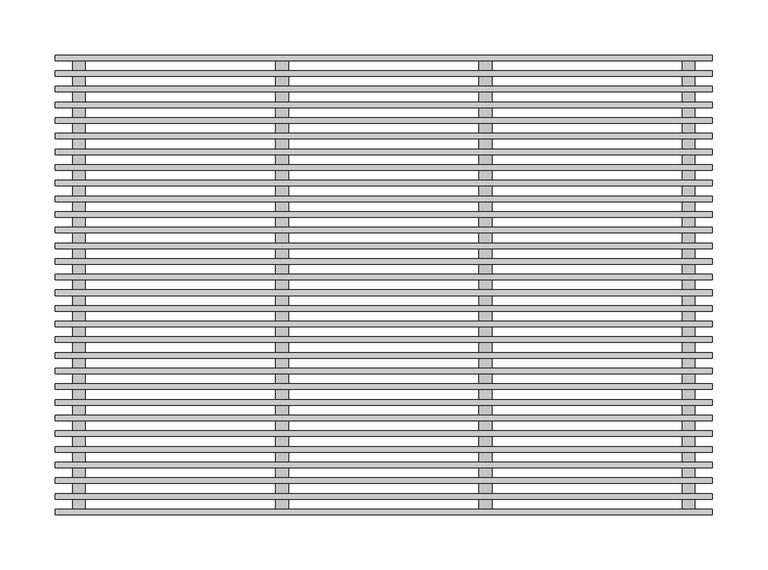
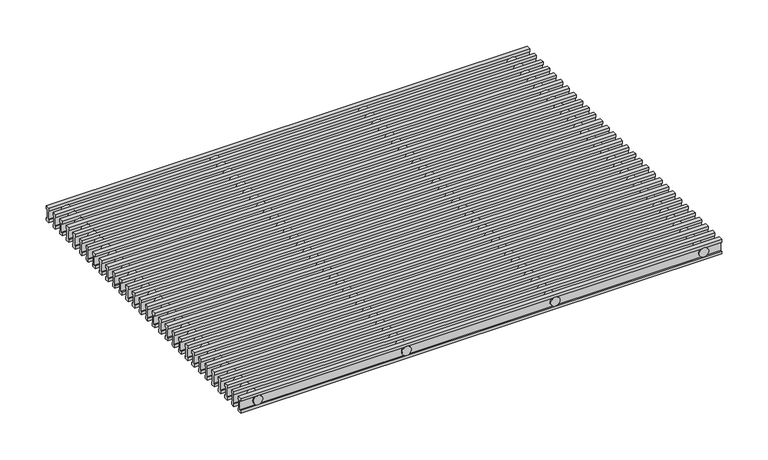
"""IFC4 building model written with IfcOpenShell, lengths in millimetres: proxy geometry, ♦ : РАП_Алюминиевая продольная/ Белый RAL 9016."""

from ifc_helpers import new_model, si_unit, point, frame, frame_2d, origin, place, context, project, spatial, polyline, circle_curve, trimmed, segment, composite_curve, outline, extrude, source, transform, mapped, element, save


def mechanical_equipment_845689bd(model_context):
    return source(origin(), model_context, "Body", "SweptSolid", [
        extrude(outline(polyline([(-189.5724138, 0.0), (-189.5724138, -3.86), (-190.8224138, -3.86), (-190.8224138, -15.44), (-189.5724138, -15.44), (-189.5724138, -19.3), (-194.5724138, -19.3), (-194.5724138, -15.44), (-193.3224138, -15.44), (-193.3224138, -3.86), (-194.5724138, -3.86), (-194.5724138, 0.0), (-189.5724138, 0.0)])), frame((1.2, 0.0, 0.0), z_axis=(1.0, 0.0, 0.0), x_axis=(0.0, 1.0, 0.0)), (0.0, 0.0, 1.0), 597.6),
        extrude(outline(polyline([(-175.3448276, 0.0), (-175.3448276, -3.86), (-176.5948276, -3.86), (-176.5948276, -15.44), (-175.3448276, -15.44), (-175.3448276, -19.3), (-180.3448276, -19.3), (-180.3448276, -15.44), (-179.0948276, -15.44), (-179.0948276, -3.86), (-180.3448276, -3.86), (-180.3448276, 0.0), (-175.3448276, 0.0)])), frame((1.2, 0.0, 0.0), z_axis=(1.0, 0.0, 0.0), x_axis=(0.0, 1.0, 0.0)), (0.0, 0.0, 1.0), 597.6),
        extrude(outline(polyline([(-161.1172414, 0.0), (-161.1172414, -3.86), (-162.3672414, -3.86), (-162.3672414, -15.44), (-161.1172414, -15.44), (-161.1172414, -19.3), (-166.1172414, -19.3), (-166.1172414, -15.44), (-164.8672414, -15.44), (-164.8672414, -3.86), (-166.1172414, -3.86), (-166.1172414, 0.0), (-161.1172414, 0.0)])), frame((1.2, 0.0, 0.0), z_axis=(1.0, 0.0, 0.0), x_axis=(0.0, 1.0, 0.0)), (0.0, 0.0, 1.0), 597.6),
        extrude(outline(polyline([(-146.8896552, 0.0), (-146.8896552, -3.86), (-148.1396552, -3.86), (-148.1396552, -15.44), (-146.8896552, -15.44), (-146.8896552, -19.3), (-151.8896552, -19.3), (-151.8896552, -15.44), (-150.6396552, -15.44), (-150.6396552, -3.86), (-151.8896552, -3.86), (-151.8896552, 0.0), (-146.8896552, 0.0)])), frame((1.2, 0.0, 0.0), z_axis=(1.0, 0.0, 0.0), x_axis=(0.0, 1.0, 0.0)), (0.0, 0.0, 1.0), 597.6),
        extrude(outline(polyline([(-132.662069, 0.0), (-132.662069, -3.86), (-133.912069, -3.86), (-133.912069, -15.44), (-132.662069, -15.44), (-132.662069, -19.3), (-137.662069, -19.3), (-137.662069, -15.44), (-136.412069, -15.44), (-136.412069, -3.86), (-137.662069, -3.86), (-137.662069, 0.0), (-132.662069, 0.0)])), frame((1.2, 0.0, 0.0), z_axis=(1.0, 0.0, 0.0), x_axis=(0.0, 1.0, 0.0)), (0.0, 0.0, 1.0), 597.6),
        extrude(outline(polyline([(-118.4344828, 0.0), (-118.4344828, -3.86), (-119.6844828, -3.86), (-119.6844828, -15.44), (-118.4344828, -15.44), (-118.4344828, -19.3), (-123.4344828, -19.3), (-123.4344828, -15.44), (-122.1844828, -15.44), (-122.1844828, -3.86), (-123.4344828, -3.86), (-123.4344828, 0.0), (-118.4344828, 0.0)])), frame((1.2, 0.0, 0.0), z_axis=(1.0, 0.0, 0.0), x_axis=(0.0, 1.0, 0.0)), (0.0, 0.0, 1.0), 597.6),
        extrude(outline(polyline([(-104.2068966, 0.0), (-104.2068966, -3.86), (-105.4568966, -3.86), (-105.4568966, -15.44), (-104.2068966, -15.44), (-104.2068966, -19.3), (-109.2068966, -19.3), (-109.2068966, -15.44), (-107.9568966, -15.44), (-107.9568966, -3.86), (-109.2068966, -3.86), (-109.2068966, 0.0), (-104.2068966, 0.0)])), frame((1.2, 0.0, 0.0), z_axis=(1.0, 0.0, 0.0), x_axis=(0.0, 1.0, 0.0)), (0.0, 0.0, 1.0), 597.6),
        extrude(outline(polyline([(-89.9793103, 0.0), (-89.9793103, -3.86), (-91.2293103, -3.86), (-91.2293103, -15.44), (-89.9793103, -15.44), (-89.9793103, -19.3), (-94.9793103, -19.3), (-94.9793103, -15.44), (-93.7293103, -15.44), (-93.7293103, -3.86), (-94.9793103, -3.86), (-94.9793103, 0.0), (-89.9793103, 0.0)])), frame((1.2, 0.0, 0.0), z_axis=(1.0, 0.0, 0.0), x_axis=(0.0, 1.0, 0.0)), (0.0, 0.0, 1.0), 597.6),
        extrude(outline(polyline([(-75.7517241, 0.0), (-75.7517241, -3.86), (-77.0017241, -3.86), (-77.0017241, -15.44), (-75.7517241, -15.44), (-75.7517241, -19.3), (-80.7517241, -19.3), (-80.7517241, -15.44), (-79.5017241, -15.44), (-79.5017241, -3.86), (-80.7517241, -3.86), (-80.7517241, 0.0), (-75.7517241, 0.0)])), frame((1.2, 0.0, 0.0), z_axis=(1.0, 0.0, 0.0), x_axis=(0.0, 1.0, 0.0)), (0.0, 0.0, 1.0), 597.6),
        extrude(outline(polyline([(-61.5241379, 0.0), (-61.5241379, -3.86), (-62.7741379, -3.86), (-62.7741379, -15.44), (-61.5241379, -15.44), (-61.5241379, -19.3), (-66.5241379, -19.3), (-66.5241379, -15.44), (-65.2741379, -15.44), (-65.2741379, -3.86), (-66.5241379, -3.86), (-66.5241379, 0.0), (-61.5241379, 0.0)])), frame((1.2, 0.0, 0.0), z_axis=(1.0, 0.0, 0.0), x_axis=(0.0, 1.0, 0.0)), (0.0, 0.0, 1.0), 597.6),
        extrude(outline(polyline([(-47.2965517, 0.0), (-47.2965517, -3.86), (-48.5465517, -3.86), (-48.5465517, -15.44), (-47.2965517, -15.44), (-47.2965517, -19.3), (-52.2965517, -19.3), (-52.2965517, -15.44), (-51.0465517, -15.44), (-51.0465517, -3.86), (-52.2965517, -3.86), (-52.2965517, 0.0), (-47.2965517, 0.0)])), frame((1.2, 0.0, 0.0), z_axis=(1.0, 0.0, 0.0), x_axis=(0.0, 1.0, 0.0)), (0.0, 0.0, 1.0), 597.6),
        extrude(outline(polyline([(-33.0689655, 0.0), (-33.0689655, -3.86), (-34.3189655, -3.86), (-34.3189655, -15.44), (-33.0689655, -15.44), (-33.0689655, -19.3), (-38.0689655, -19.3), (-38.0689655, -15.44), (-36.8189655, -15.44), (-36.8189655, -3.86), (-38.0689655, -3.86), (-38.0689655, 0.0), (-33.0689655, 0.0)])), frame((1.2, 0.0, 0.0), z_axis=(1.0, 0.0, 0.0), x_axis=(0.0, 1.0, 0.0)), (0.0, 0.0, 1.0), 597.6),
        extrude(outline(polyline([(-18.8413793, 0.0), (-18.8413793, -3.86), (-20.0913793, -3.86), (-20.0913793, -15.44), (-18.8413793, -15.44), (-18.8413793, -19.3), (-23.8413793, -19.3), (-23.8413793, -15.44), (-22.5913793, -15.44), (-22.5913793, -3.86), (-23.8413793, -3.86), (-23.8413793, 0.0), (-18.8413793, 0.0)])), frame((1.2, 0.0, 0.0), z_axis=(1.0, 0.0, 0.0), x_axis=(0.0, 1.0, 0.0)), (0.0, 0.0, 1.0), 597.6),
        extrude(outline(polyline([(-4.6137931, 0.0), (-4.6137931, -3.86), (-5.8637931, -3.86), (-5.8637931, -15.44), (-4.6137931, -15.44), (-4.6137931, -19.3), (-9.6137931, -19.3), (-9.6137931, -15.44), (-8.3637931, -15.44), (-8.3637931, -3.86), (-9.6137931, -3.86), (-9.6137931, 0.0), (-4.6137931, 0.0)])), frame((1.2, 0.0, 0.0), z_axis=(1.0, 0.0, 0.0), x_axis=(0.0, 1.0, 0.0)), (0.0, 0.0, 1.0), 597.6),
        extrude(outline(polyline([(9.6137931, 0.0), (9.6137931, -3.86), (8.3637931, -3.86), (8.3637931, -15.44), (9.6137931, -15.44), (9.6137931, -19.3), (4.6137931, -19.3), (4.6137931, -15.44), (5.8637931, -15.44), (5.8637931, -3.86), (4.6137931, -3.86), (4.6137931, 0.0), (9.6137931, 0.0)])), frame((1.2, 0.0, 0.0), z_axis=(1.0, 0.0, 0.0), x_axis=(0.0, 1.0, 0.0)), (0.0, 0.0, 1.0), 597.6),
        extrude(outline(polyline([(23.8413793, 0.0), (23.8413793, -3.86), (22.5913793, -3.86), (22.5913793, -15.44), (23.8413793, -15.44), (23.8413793, -19.3), (18.8413793, -19.3), (18.8413793, -15.44), (20.0913793, -15.44), (20.0913793, -3.86), (18.8413793, -3.86), (18.8413793, 0.0), (23.8413793, 0.0)])), frame((1.2, 0.0, 0.0), z_axis=(1.0, 0.0, 0.0), x_axis=(0.0, 1.0, 0.0)), (0.0, 0.0, 1.0), 597.6),
        extrude(outline(polyline([(38.0689655, 0.0), (38.0689655, -3.86), (36.8189655, -3.86), (36.8189655, -15.44), (38.0689655, -15.44), (38.0689655, -19.3), (33.0689655, -19.3), (33.0689655, -15.44), (34.3189655, -15.44), (34.3189655, -3.86), (33.0689655, -3.86), (33.0689655, 0.0), (38.0689655, 0.0)])), frame((1.2, 0.0, 0.0), z_axis=(1.0, 0.0, 0.0), x_axis=(0.0, 1.0, 0.0)), (0.0, 0.0, 1.0), 597.6),
        extrude(outline(polyline([(52.2965517, 0.0), (52.2965517, -3.86), (51.0465517, -3.86), (51.0465517, -15.44), (52.2965517, -15.44), (52.2965517, -19.3), (47.2965517, -19.3), (47.2965517, -15.44), (48.5465517, -15.44), (48.5465517, -3.86), (47.2965517, -3.86), (47.2965517, 0.0), (52.2965517, 0.0)])), frame((1.2, 0.0, 0.0), z_axis=(1.0, 0.0, 0.0), x_axis=(0.0, 1.0, 0.0)), (0.0, 0.0, 1.0), 597.6),
        extrude(outline(polyline([(66.5241379, 0.0), (66.5241379, -3.86), (65.2741379, -3.86), (65.2741379, -15.44), (66.5241379, -15.44), (66.5241379, -19.3), (61.5241379, -19.3), (61.5241379, -15.44), (62.7741379, -15.44), (62.7741379, -3.86), (61.5241379, -3.86), (61.5241379, 0.0), (66.5241379, 0.0)])), frame((1.2, 0.0, 0.0), z_axis=(1.0, 0.0, 0.0), x_axis=(0.0, 1.0, 0.0)), (0.0, 0.0, 1.0), 597.6),
        extrude(outline(polyline([(80.7517241, 0.0), (80.7517241, -3.86), (79.5017241, -3.86), (79.5017241, -15.44), (80.7517241, -15.44), (80.7517241, -19.3), (75.7517241, -19.3), (75.7517241, -15.44), (77.0017241, -15.44), (77.0017241, -3.86), (75.7517241, -3.86), (75.7517241, 0.0), (80.7517241, 0.0)])), frame((1.2, 0.0, 0.0), z_axis=(1.0, 0.0, 0.0), x_axis=(0.0, 1.0, 0.0)), (0.0, 0.0, 1.0), 597.6),
        extrude(outline(polyline([(94.9793103, 0.0), (94.9793103, -3.86), (93.7293103, -3.86), (93.7293103, -15.44), (94.9793103, -15.44), (94.9793103, -19.3), (89.9793103, -19.3), (89.9793103, -15.44), (91.2293103, -15.44), (91.2293103, -3.86), (89.9793103, -3.86), (89.9793103, 0.0), (94.9793103, 0.0)])), frame((1.2, 0.0, 0.0), z_axis=(1.0, 0.0, 0.0), x_axis=(0.0, 1.0, 0.0)), (0.0, 0.0, 1.0), 597.6),
        extrude(outline(polyline([(109.2068966, 0.0), (109.2068966, -3.86), (107.9568966, -3.86), (107.9568966, -15.44), (109.2068966, -15.44), (109.2068966, -19.3), (104.2068966, -19.3), (104.2068966, -15.44), (105.4568966, -15.44), (105.4568966, -3.86), (104.2068966, -3.86), (104.2068966, 0.0), (109.2068966, 0.0)])), frame((1.2, 0.0, 0.0), z_axis=(1.0, 0.0, 0.0), x_axis=(0.0, 1.0, 0.0)), (0.0, 0.0, 1.0), 597.6),
        extrude(outline(composite_curve([segment(trimmed(circle_curve(frame_2d((-9.6, 392.3333333)), 5.8), [point((-9.6, 386.5333333))], [point((-9.6, 398.1333333))], False, "CARTESIAN"), True, "CONTINUOUS"), segment(trimmed(circle_curve(frame_2d((-9.6, 392.3333333)), 5.8), [point((-9.6, 398.1333333))], [point((-9.6, 386.5333333))], False, "CARTESIAN"), True, "CONTINUOUS")], self_intersect=False)), frame((0.0, -208.8, 0.0), z_axis=(0.0, 1.0, 0.0), x_axis=(0.0, 0.0, 1.0)), (0.0, 0.0, 1.0), 417.6),
        extrude(outline(composite_curve([segment(trimmed(circle_curve(frame_2d((-9.6, 207.6666667)), 5.8), [point((-9.6, 201.8666667))], [point((-9.6, 213.4666667))], False, "CARTESIAN"), True, "CONTINUOUS"), segment(trimmed(circle_curve(frame_2d((-9.6, 207.6666667)), 5.8), [point((-9.6, 213.4666667))], [point((-9.6, 201.8666667))], False, "CARTESIAN"), True, "CONTINUOUS")], self_intersect=False)), frame((0.0, -208.8, 0.0), z_axis=(0.0, 1.0, 0.0), x_axis=(0.0, 0.0, 1.0)), (0.0, 0.0, 1.0), 417.6),
        extrude(outline(composite_curve([segment(trimmed(circle_curve(frame_2d((-9.6, 577.0)), 5.8), [point((-9.6, 571.2))], [point((-9.6, 582.8))], False, "CARTESIAN"), True, "CONTINUOUS"), segment(trimmed(circle_curve(frame_2d((-9.6, 577.0)), 5.8), [point((-9.6, 582.8))], [point((-9.6, 571.2))], False, "CARTESIAN"), True, "CONTINUOUS")], self_intersect=False)), frame((0.0, -208.8, 0.0), z_axis=(0.0, 1.0, 0.0), x_axis=(0.0, 0.0, 1.0)), (0.0, 0.0, 1.0), 417.6),
        extrude(outline(composite_curve([segment(trimmed(circle_curve(frame_2d((-9.6, 23.0)), 5.8), [point((-9.6, 17.2))], [point((-9.6, 28.8))], False, "CARTESIAN"), True, "CONTINUOUS"), segment(trimmed(circle_curve(frame_2d((-9.6, 23.0)), 5.8), [point((-9.6, 28.8))], [point((-9.6, 17.2))], False, "CARTESIAN"), True, "CONTINUOUS")], self_intersect=False)), frame((0.0, -208.8, 0.0), z_axis=(0.0, 1.0, 0.0), x_axis=(0.0, 0.0, 1.0)), (0.0, 0.0, 1.0), 417.6),
        extrude(outline(polyline([(123.4344828, 0.0), (123.4344828, -3.86), (122.1844828, -3.86), (122.1844828, -15.44), (123.4344828, -15.44), (123.4344828, -19.3), (118.4344828, -19.3), (118.4344828, -15.44), (119.6844828, -15.44), (119.6844828, -3.86), (118.4344828, -3.86), (118.4344828, 0.0), (123.4344828, 0.0)])), frame((1.2, 0.0, 0.0), z_axis=(1.0, 0.0, 0.0), x_axis=(0.0, 1.0, 0.0)), (0.0, 0.0, 1.0), 597.6),
        extrude(outline(polyline([(137.662069, 0.0), (137.662069, -3.86), (136.412069, -3.86), (136.412069, -15.44), (137.662069, -15.44), (137.662069, -19.3), (132.662069, -19.3), (132.662069, -15.44), (133.912069, -15.44), (133.912069, -3.86), (132.662069, -3.86), (132.662069, 0.0), (137.662069, 0.0)])), frame((1.2, 0.0, 0.0), z_axis=(1.0, 0.0, 0.0), x_axis=(0.0, 1.0, 0.0)), (0.0, 0.0, 1.0), 597.6),
        extrude(outline(polyline([(151.8896552, 0.0), (151.8896552, -3.86), (150.6396552, -3.86), (150.6396552, -15.44), (151.8896552, -15.44), (151.8896552, -19.3), (146.8896552, -19.3), (146.8896552, -15.44), (148.1396552, -15.44), (148.1396552, -3.86), (146.8896552, -3.86), (146.8896552, 0.0), (151.8896552, 0.0)])), frame((1.2, 0.0, 0.0), z_axis=(1.0, 0.0, 0.0), x_axis=(0.0, 1.0, 0.0)), (0.0, 0.0, 1.0), 597.6),
        extrude(outline(polyline([(166.1172414, 0.0), (166.1172414, -3.86), (164.8672414, -3.86), (164.8672414, -15.44), (166.1172414, -15.44), (166.1172414, -19.3), (161.1172414, -19.3), (161.1172414, -15.44), (162.3672414, -15.44), (162.3672414, -3.86), (161.1172414, -3.86), (161.1172414, 0.0), (166.1172414, 0.0)])), frame((1.2, 0.0, 0.0), z_axis=(1.0, 0.0, 0.0), x_axis=(0.0, 1.0, 0.0)), (0.0, 0.0, 1.0), 597.6),
        extrude(outline(polyline([(180.3448276, 0.0), (180.3448276, -3.86), (179.0948276, -3.86), (179.0948276, -15.44), (180.3448276, -15.44), (180.3448276, -19.3), (175.3448276, -19.3), (175.3448276, -15.44), (176.5948276, -15.44), (176.5948276, -3.86), (175.3448276, -3.86), (175.3448276, 0.0), (180.3448276, 0.0)])), frame((1.2, 0.0, 0.0), z_axis=(1.0, 0.0, 0.0), x_axis=(0.0, 1.0, 0.0)), (0.0, 0.0, 1.0), 597.6),
        extrude(outline(polyline([(194.5724138, 0.0), (194.5724138, -3.86), (193.3224138, -3.86), (193.3224138, -15.44), (194.5724138, -15.44), (194.5724138, -19.3), (189.5724138, -19.3), (189.5724138, -15.44), (190.8224138, -15.44), (190.8224138, -3.86), (189.5724138, -3.86), (189.5724138, 0.0), (194.5724138, 0.0)])), frame((1.2, 0.0, 0.0), z_axis=(1.0, 0.0, 0.0), x_axis=(0.0, 1.0, 0.0)), (0.0, 0.0, 1.0), 597.6),
        extrude(outline(polyline([(-203.8, 0.0), (-203.8, -3.86), (-205.05, -3.86), (-205.05, -15.44), (-203.8, -15.44), (-203.8, -19.3), (-208.8, -19.3), (-208.8, -15.44), (-207.55, -15.44), (-207.55, -3.86), (-208.8, -3.86), (-208.8, 0.0), (-203.8, 0.0)])), frame((1.2, 0.0, 0.0), z_axis=(1.0, 0.0, 0.0), x_axis=(0.0, 1.0, 0.0)), (0.0, 0.0, 1.0), 597.6),
        extrude(outline(polyline([(208.8, 0.0), (208.8, -3.86), (207.55, -3.86), (207.55, -15.44), (208.8, -15.44), (208.8, -19.3), (203.8, -19.3), (203.8, -15.44), (205.05, -15.44), (205.05, -3.86), (203.8, -3.86), (203.8, 0.0), (208.8, 0.0)])), frame((1.2, 0.0, 0.0), z_axis=(1.0, 0.0, 0.0), x_axis=(0.0, 1.0, 0.0)), (0.0, 0.0, 1.0), 597.6),
    ])


if __name__ == "__main__":
    model = new_model("IFC4")
    model_context = context("Model", 3, world=origin())
    ifc_project = project(units=[si_unit("LENGTHUNIT", "METRE", prefix="MILLI")], contexts=[model_context])
    site = spatial("IfcSite", under=ifc_project)
    building = spatial("IfcBuilding", under=site)
    placement = place(None, origin())
    mechanical_equipment_shape = mechanical_equipment_845689bd(model_context)
    element("IfcBuildingElementProxy", 1, Name="♦ : РАП_Алюминиевая продольная/ Белый RAL 9016", ObjectType="♦ : РАП_Алюминиевая продольная/ Белый RAL 9016", at=placement, inside=building, context=model_context, shape_type="MappedRepresentation", body=[
        mapped(mechanical_equipment_shape, transform((0.0, 0.0, 0.0), x_axis=(1.0, 0.0, 0.0), y_axis=(0.0, 1.0, 0.0), z_axis=(0.0, 0.0, 1.0))),
    ])
    save(model, "model.ifc")
